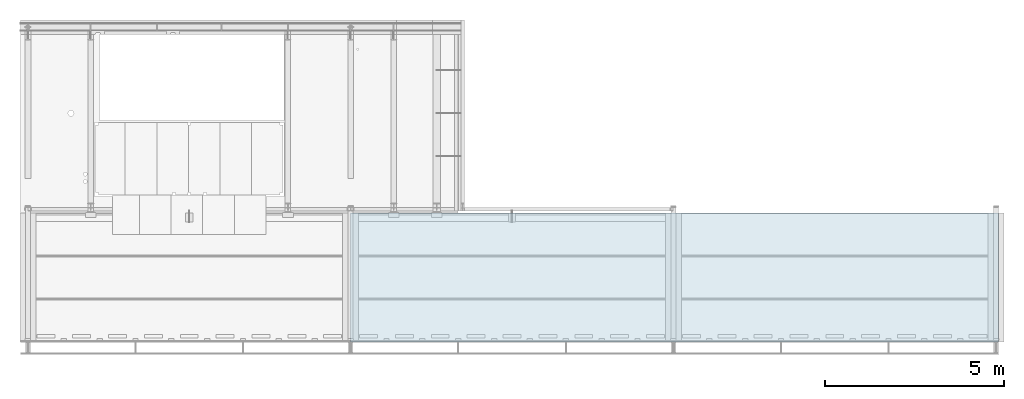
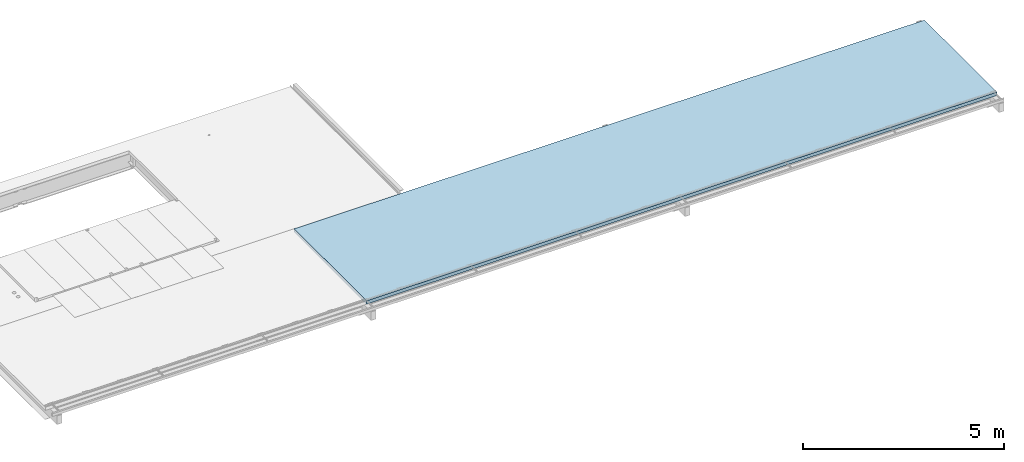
# One storey, part 13 of 13: 1 slab.
"""IFC2X3 building model written with IfcOpenShell, lengths in millimetres."""

from ifc_helpers import new_model, entity, si_unit, converted_unit, derived_unit, direction, frame, origin_with_axes, place, context, subcontext, project, spatial, faceted_brep, type_object, element, save


model = new_model("IFC2X3")

# Units and contexts
model_context = context("Model", 3, precision=0.01, world=frame((0.0, 4.29681676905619e-09, 0.0)), true_north=direction((4.01073788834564e-13, 1.0)))
plan_context = context("Plan", 3, precision=0.01, world=frame((0.0, 4.29681676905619e-09, 0.0)), true_north=direction((4.01073788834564e-13, 1.0)))
body_context = subcontext(model_context, "Body", "Model", "MODEL_VIEW")
ifc_project = project(units=[converted_unit("PLANEANGLEUNIT", "DEGREE", entity("IfcPositiveLengthMeasure", 0.0174532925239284), si_unit("PLANEANGLEUNIT", "RADIAN"), dimensions=[0, 0, 0, 0, 0, 0, 0]), si_unit("AREAUNIT", "SQUARE_METRE"), si_unit("LENGTHUNIT", "METRE", prefix="MILLI"), si_unit("MASSUNIT", "GRAM", prefix="KILO"), si_unit("POWERUNIT", "WATT"), si_unit("PRESSUREUNIT", "PASCAL", prefix="KILO"), si_unit("FORCEUNIT", "NEWTON", prefix="KILO"), si_unit("ELECTRICVOLTAGEUNIT", "VOLT"), si_unit("ELECTRICCURRENTUNIT", "AMPERE"), si_unit("THERMODYNAMICTEMPERATUREUNIT", "DEGREE_CELSIUS"), si_unit("TIMEUNIT", "SECOND"), si_unit("VOLUMEUNIT", "CUBIC_METRE"), derived_unit("LINEARVELOCITYUNIT", [(si_unit("LENGTHUNIT", "METRE"), 1), (si_unit("TIMEUNIT", "SECOND"), -1)]), derived_unit("VOLUMETRICFLOWRATEUNIT", [(si_unit("VOLUMEUNIT", "CUBIC_METRE"), 1), (si_unit("TIMEUNIT", "SECOND"), -1)]), derived_unit("THERMALTRANSMITTANCEUNIT", [(si_unit("POWERUNIT", "WATT"), 1), (si_unit("THERMODYNAMICTEMPERATUREUNIT", "KELVIN"), -1), (si_unit("AREAUNIT", "SQUARE_METRE"), -1)]), derived_unit("SOUNDPRESSUREUNIT", [(si_unit("PRESSUREUNIT", "PASCAL"), 1)])], contexts=[model_context, plan_context])

# Site, building, storey
site_placement = place(None, frame((0.0, -4.29681676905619e-09, 0.0), z_axis=(0.0, 0.0, 1.0), x_axis=(1.0, 0.0, 0.0)))
site = spatial("IfcSite", under=ifc_project, at=site_placement, Name="Gardermoen", CompositionType="ELEMENT")
building_placement = place(site_placement, frame((0.0, 4.29681676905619e-09, 0.0), z_axis=(0.0, 0.0, 1.0), x_axis=(1.0, 0.0, 0.0)))
building = spatial("IfcBuilding", under=site, at=building_placement, Name="TG", CompositionType="ELEMENT")
storey_placement = place(building_placement, origin_with_axes())
storey = spatial("IfcBuildingStorey", under=building, at=storey_placement, Name="G", CompositionType="ELEMENT", Elevation=0.0)

# Slab
slab_type = type_object("IfcSlabType", Name="100*3600", PredefinedType="NOTDEFINED")
slab_placement = place(storey_placement, frame((357999.999766, 462120.01123, 213610.0), z_axis=(-1.0, 0.0, 0.0), x_axis=(0.0, -1.0, 0.0)))
element("IfcSlab", 1, at=slab_placement, inside=storey, type_object=slab_type, Name="PÅSTØP", ObjectType="100*3600", PredefinedType="FLOOR", context=body_context, shape_type="Brep", body=[
    faceted_brep([(-1.94720797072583e-10, -50.0, 8935.49976599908), (1.16832478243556e-10, 50.0, 8935.49976599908), (0.0, 50.0, 27000.0), (0.0, -50.0, 27000.0), (3600.0068359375, 50.0, 27000.0), (3600.0068359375, -50.0, 27000.0), (3600.00977612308, 50.0, 8935.49976599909), (3600.00977612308, -50.0, 8935.49976599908)], [[[0, 1, 2, 3]], [[2, 4, 5, 3]], [[6, 7, 5, 4]], [[1, 6, 4, 2]], [[7, 0, 3, 5]], [[7, 6, 1, 0]]], orient=[[False], [False], [False], [False], [False], [False]]),
])

save(model, "model.ifc")
